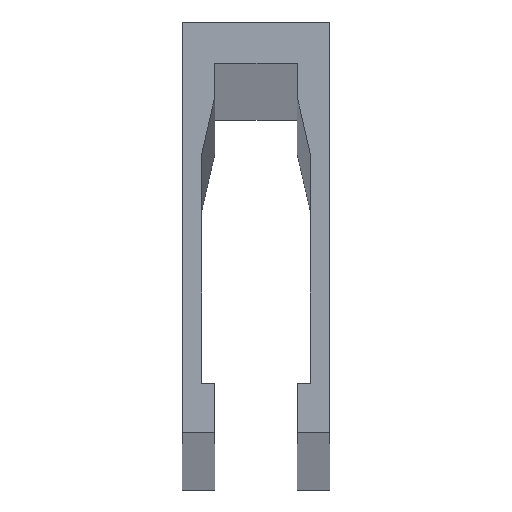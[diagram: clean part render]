
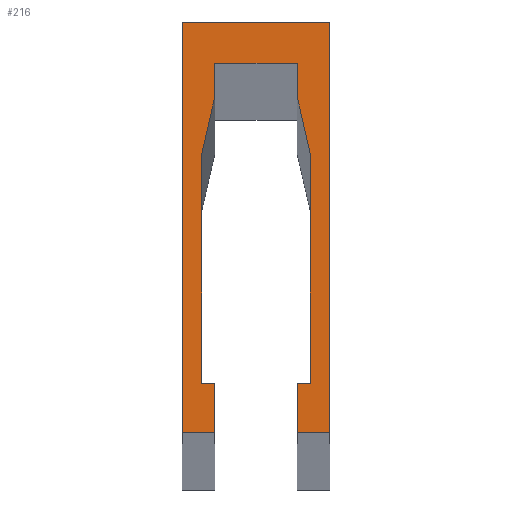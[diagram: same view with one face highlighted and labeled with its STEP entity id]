
A CAD part, top view. The second image highlights one B-rep face of the part: STEP entity #216.
In plain terms, the highlighted planar face has unit normal (0, 0, 1).
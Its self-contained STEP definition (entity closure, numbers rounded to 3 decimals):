
#7 = EDGE_CURVE ( 'NONE', #359, #314, #186, .T. ) ;
#12 = VECTOR ( 'NONE', #89, 1000. ) ;
#20 = CARTESIAN_POINT ( 'NONE',  ( -2.5, 17.5, 0. ) ) ;
#22 = VECTOR ( 'NONE', #57, 1000. ) ;
#27 = VECTOR ( 'NONE', #401, 1000. ) ;
#30 = ORIENTED_EDGE ( 'NONE', *, *, #483, .T. ) ;
#35 = DIRECTION ( 'NONE',  ( 0., -1., 0. ) ) ;
#38 = VECTOR ( 'NONE', #153, 1000. ) ;
#43 = DIRECTION ( 'NONE',  ( -1., 0., 0. ) ) ;
#52 = EDGE_CURVE ( 'NONE', #217, #260, #507, .T. ) ;
#57 = DIRECTION ( 'NONE',  ( 0., -1., 0. ) ) ;
#65 = EDGE_CURVE ( 'NONE', #547, #125, #269, .T. ) ;
#70 = CARTESIAN_POINT ( 'NONE',  ( -4.5, 22., 0. ) ) ;
#75 = VECTOR ( 'NONE', #353, 1000. ) ;
#78 = EDGE_CURVE ( 'NONE', #80, #218, #464, .T. ) ;
#79 = LINE ( 'NONE', #425, #38 ) ;
#80 = VERTEX_POINT ( 'NONE', #510 ) ;
#84 = VECTOR ( 'NONE', #433, 1000. ) ;
#86 = CARTESIAN_POINT ( 'NONE',  ( 2.5, 17.5, 0. ) ) ;
#89 = DIRECTION ( 'NONE',  ( 0., 1., 0. ) ) ;
#103 = CARTESIAN_POINT ( 'NONE',  ( 2.5, 0., 0. ) ) ;
#113 = LINE ( 'NONE', #161, #84 ) ;
#123 = VECTOR ( 'NONE', #334, 1000. ) ;
#124 = CARTESIAN_POINT ( 'NONE',  ( 3.3, 14., 0. ) ) ;
#125 = VERTEX_POINT ( 'NONE', #171 ) ;
#130 = VERTEX_POINT ( 'NONE', #262 ) ;
#132 = VECTOR ( 'NONE', #316, 1000. ) ;
#136 = VERTEX_POINT ( 'NONE', #312 ) ;
#150 = LINE ( 'NONE', #124, #123 ) ;
#151 = CARTESIAN_POINT ( 'NONE',  ( 4.5, -3., 0. ) ) ;
#152 = CARTESIAN_POINT ( 'NONE',  ( -4.5, -3., 0. ) ) ;
#153 = DIRECTION ( 'NONE',  ( 1., 0., 0. ) ) ;
#154 = VECTOR ( 'NONE', #349, 1000. ) ;
#159 = EDGE_CURVE ( 'NONE', #593, #586, #357, .T. ) ;
#161 = CARTESIAN_POINT ( 'NONE',  ( -2.5, 17.5, 0. ) ) ;
#165 = ORIENTED_EDGE ( 'NONE', *, *, #553, .T. ) ;
#169 = CARTESIAN_POINT ( 'NONE',  ( -3.3, 0., 0. ) ) ;
#171 = CARTESIAN_POINT ( 'NONE',  ( -2.5, 19.5, 0. ) ) ;
#174 = EDGE_CURVE ( 'NONE', #136, #543, #258, .T. ) ;
#176 = ORIENTED_EDGE ( 'NONE', *, *, #52, .T. ) ;
#183 = ORIENTED_EDGE ( 'NONE', *, *, #356, .T. ) ;
#186 = LINE ( 'NONE', #502, #75 ) ;
#187 = ORIENTED_EDGE ( 'NONE', *, *, #204, .T. ) ;
#198 = CARTESIAN_POINT ( 'NONE',  ( 2.5, -3., 0. ) ) ;
#202 = EDGE_CURVE ( 'NONE', #344, #359, #594, .T. ) ;
#204 = EDGE_CURVE ( 'NONE', #260, #136, #398, .T. ) ;
#207 = VECTOR ( 'NONE', #43, 1000. ) ;
#211 = CARTESIAN_POINT ( 'NONE',  ( -4.5, 22., 0. ) ) ;
#216 = ADVANCED_FACE ( 'NONE', ( #307 ), #501, .T. ) ;
#217 = VERTEX_POINT ( 'NONE', #403 ) ;
#218 = VERTEX_POINT ( 'NONE', #86 ) ;
#221 = CARTESIAN_POINT ( 'NONE',  ( -2.5, 0., 0. ) ) ;
#223 = ORIENTED_EDGE ( 'NONE', *, *, #243, .T. ) ;
#226 = VECTOR ( 'NONE', #467, 1000. ) ;
#227 = CARTESIAN_POINT ( 'NONE',  ( -2.5, 19.5, 0. ) ) ;
#243 = EDGE_CURVE ( 'NONE', #314, #593, #282, .T. ) ;
#251 = VECTOR ( 'NONE', #35, 1000. ) ;
#258 = LINE ( 'NONE', #169, #27 ) ;
#259 = ORIENTED_EDGE ( 'NONE', *, *, #65, .T. ) ;
#260 = VERTEX_POINT ( 'NONE', #373 ) ;
#262 = CARTESIAN_POINT ( 'NONE',  ( -4.5, -3., 0. ) ) ;
#269 = LINE ( 'NONE', #227, #132 ) ;
#271 = LINE ( 'NONE', #518, #22 ) ;
#274 = ORIENTED_EDGE ( 'NONE', *, *, #385, .T. ) ;
#281 = VERTEX_POINT ( 'NONE', #524 ) ;
#282 = LINE ( 'NONE', #573, #572 ) ;
#302 = ORIENTED_EDGE ( 'NONE', *, *, #159, .T. ) ;
#307 = FACE_OUTER_BOUND ( 'NONE', #414, .T. ) ;
#310 = DIRECTION ( 'NONE',  ( 0., 0., 1. ) ) ;
#312 = CARTESIAN_POINT ( 'NONE',  ( -3.3, 0., 0. ) ) ;
#314 = VERTEX_POINT ( 'NONE', #151 ) ;
#315 = CARTESIAN_POINT ( 'NONE',  ( 0., 0., 0. ) ) ;
#316 = DIRECTION ( 'NONE',  ( 0., 1., 0. ) ) ;
#319 = VECTOR ( 'NONE', #545, 1000. ) ;
#321 = EDGE_CURVE ( 'NONE', #130, #217, #426, .T. ) ;
#334 = DIRECTION ( 'NONE',  ( 0.223, -0.975, 0. ) ) ;
#337 = ORIENTED_EDGE ( 'NONE', *, *, #78, .T. ) ;
#338 = ORIENTED_EDGE ( 'NONE', *, *, #174, .T. ) ;
#344 = VERTEX_POINT ( 'NONE', #103 ) ;
#349 = DIRECTION ( 'NONE',  ( 0., -1., 0. ) ) ;
#351 = AXIS2_PLACEMENT_3D ( 'NONE', #315, #310, #504 ) ;
#353 = DIRECTION ( 'NONE',  ( 1., 0., 0. ) ) ;
#354 = ORIENTED_EDGE ( 'NONE', *, *, #7, .T. ) ;
#356 = EDGE_CURVE ( 'NONE', #546, #281, #271, .T. ) ;
#357 = LINE ( 'NONE', #211, #207 ) ;
#359 = VERTEX_POINT ( 'NONE', #198 ) ;
#360 = DIRECTION ( 'NONE',  ( 0., 1., 0. ) ) ;
#366 = VECTOR ( 'NONE', #538, 1000. ) ;
#373 = CARTESIAN_POINT ( 'NONE',  ( -2.5, 0., 0. ) ) ;
#379 = CARTESIAN_POINT ( 'NONE',  ( 3.3, 14., 0. ) ) ;
#385 = EDGE_CURVE ( 'NONE', #543, #547, #113, .T. ) ;
#387 = ORIENTED_EDGE ( 'NONE', *, *, #321, .T. ) ;
#398 = LINE ( 'NONE', #221, #319 ) ;
#401 = DIRECTION ( 'NONE',  ( 0., 1., 0. ) ) ;
#402 = CARTESIAN_POINT ( 'NONE',  ( -2.5, -3., 0. ) ) ;
#403 = CARTESIAN_POINT ( 'NONE',  ( -2.5, -3., 0. ) ) ;
#414 = EDGE_LOOP ( 'NONE', ( #176, #187, #338, #274, #259, #30, #337, #465, #183, #435, #448, #354, #223, #302, #165, #387 ) ) ;
#425 = CARTESIAN_POINT ( 'NONE',  ( 2.5, 19.5, 0. ) ) ;
#426 = LINE ( 'NONE', #469, #503 ) ;
#433 = DIRECTION ( 'NONE',  ( 0.223, 0.975, 0. ) ) ;
#435 = ORIENTED_EDGE ( 'NONE', *, *, #509, .T. ) ;
#448 = ORIENTED_EDGE ( 'NONE', *, *, #202, .T. ) ;
#464 = LINE ( 'NONE', #595, #154 ) ;
#465 = ORIENTED_EDGE ( 'NONE', *, *, #488, .T. ) ;
#467 = DIRECTION ( 'NONE',  ( 0., -1., 0. ) ) ;
#469 = CARTESIAN_POINT ( 'NONE',  ( -2.5, -3., 0. ) ) ;
#470 = CARTESIAN_POINT ( 'NONE',  ( -3.3, 14., 0. ) ) ;
#480 = CARTESIAN_POINT ( 'NONE',  ( 2.5, 0., 0. ) ) ;
#483 = EDGE_CURVE ( 'NONE', #125, #80, #79, .T. ) ;
#488 = EDGE_CURVE ( 'NONE', #218, #546, #150, .T. ) ;
#501 = PLANE ( 'NONE',  #351 ) ;
#502 = CARTESIAN_POINT ( 'NONE',  ( 4.5, -3., 0. ) ) ;
#503 = VECTOR ( 'NONE', #567, 1000. ) ;
#504 = DIRECTION ( 'NONE',  ( 1., 0., 0. ) ) ;
#506 = CARTESIAN_POINT ( 'NONE',  ( 2.5, -3., 0. ) ) ;
#507 = LINE ( 'NONE', #402, #12 ) ;
#509 = EDGE_CURVE ( 'NONE', #281, #344, #584, .T. ) ;
#510 = CARTESIAN_POINT ( 'NONE',  ( 2.5, 19.5, 0. ) ) ;
#518 = CARTESIAN_POINT ( 'NONE',  ( 3.3, 0., 0. ) ) ;
#524 = CARTESIAN_POINT ( 'NONE',  ( 3.3, 0., 0. ) ) ;
#538 = DIRECTION ( 'NONE',  ( -1., 0., 0. ) ) ;
#543 = VERTEX_POINT ( 'NONE', #470 ) ;
#545 = DIRECTION ( 'NONE',  ( -1., 0., 0. ) ) ;
#546 = VERTEX_POINT ( 'NONE', #379 ) ;
#547 = VERTEX_POINT ( 'NONE', #20 ) ;
#553 = EDGE_CURVE ( 'NONE', #586, #130, #570, .T. ) ;
#564 = CARTESIAN_POINT ( 'NONE',  ( 4.5, 22., 0. ) ) ;
#567 = DIRECTION ( 'NONE',  ( 1., 0., 0. ) ) ;
#570 = LINE ( 'NONE', #152, #226 ) ;
#572 = VECTOR ( 'NONE', #360, 1000. ) ;
#573 = CARTESIAN_POINT ( 'NONE',  ( 4.5, 22., 0. ) ) ;
#584 = LINE ( 'NONE', #480, #366 ) ;
#586 = VERTEX_POINT ( 'NONE', #70 ) ;
#593 = VERTEX_POINT ( 'NONE', #564 ) ;
#594 = LINE ( 'NONE', #506, #251 ) ;
#595 = CARTESIAN_POINT ( 'NONE',  ( 2.5, 17.5, 0. ) ) ;
